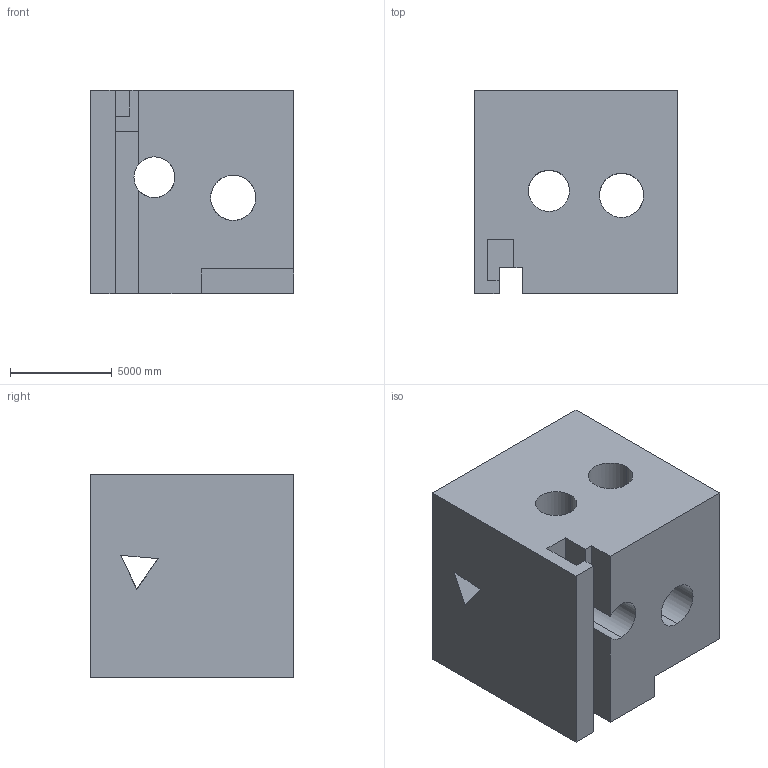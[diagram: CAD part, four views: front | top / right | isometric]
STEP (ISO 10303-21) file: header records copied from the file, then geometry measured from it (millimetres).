
FILE_DESCRIPTION (( 'STEP AP203' ), '1' );
FILE_NAME ('1968.STEP', '2022-08-23T10:05:02', ( 'user' ), ( '' ), 'SwSTEP 2.0', 'SolidWorks 2021', '' );
FILE_SCHEMA (( 'CONFIG_CONTROL_DESIGN' ));
Length unit declared in the file: centimetre
Products named in the file (1): 1968
Bounding box: 10000 x 10000 x 10000 mm (x, y, z)
Volume: 816680487389.7 mm3; surface area: 879681547.1 mm2
Topology: 1 solids, 1 shells, 39 faces, 137 edges, 91 vertices
Faces by surface type: plane 28, cylinder 11
Entity records: 2685 total; most frequent: CARTESIAN_POINT 1431, ORIENTED_EDGE 274, DIRECTION 215, EDGE_CURVE 137, LINE 95, VECTOR 95, VERTEX_POINT 91, AXIS2_PLACEMENT_3D 60
